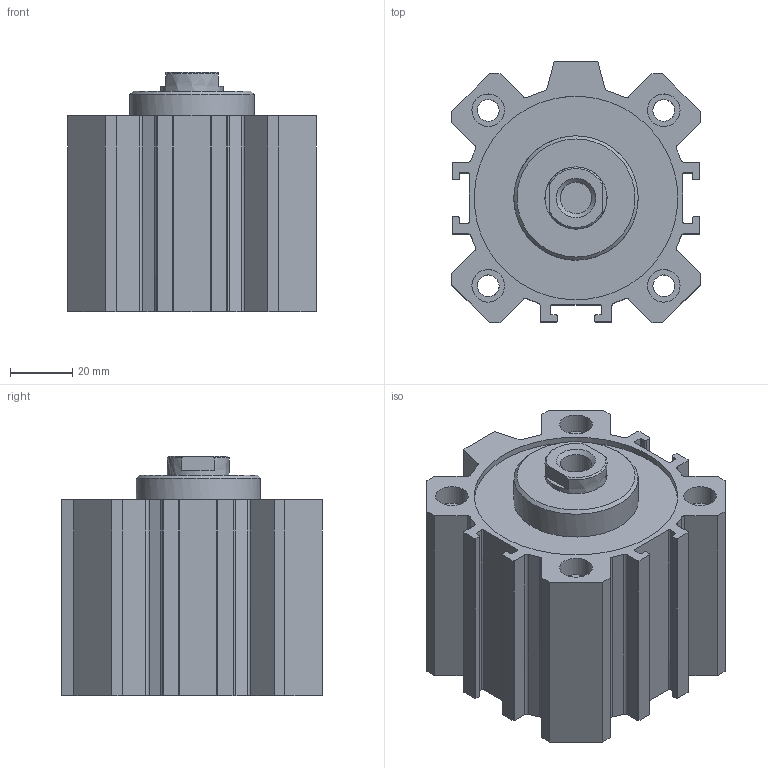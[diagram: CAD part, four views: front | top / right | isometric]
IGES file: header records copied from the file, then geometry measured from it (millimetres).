
Global section: file name: 1511_63_0020; native system: Autodesk Inventor 2014; preprocessor: unknown; author: A. Manieri; date: 20160824.140047; units: millimetre
Bounding box: 80 x 84 x 77 mm (x, y, z)
Volume: 270326.6 mm3; surface area: 71397.8 mm2
Topology: 2 solids, 2 shells, 165 faces, 443 edges, 300 vertices
Faces by surface type: bspline 165
